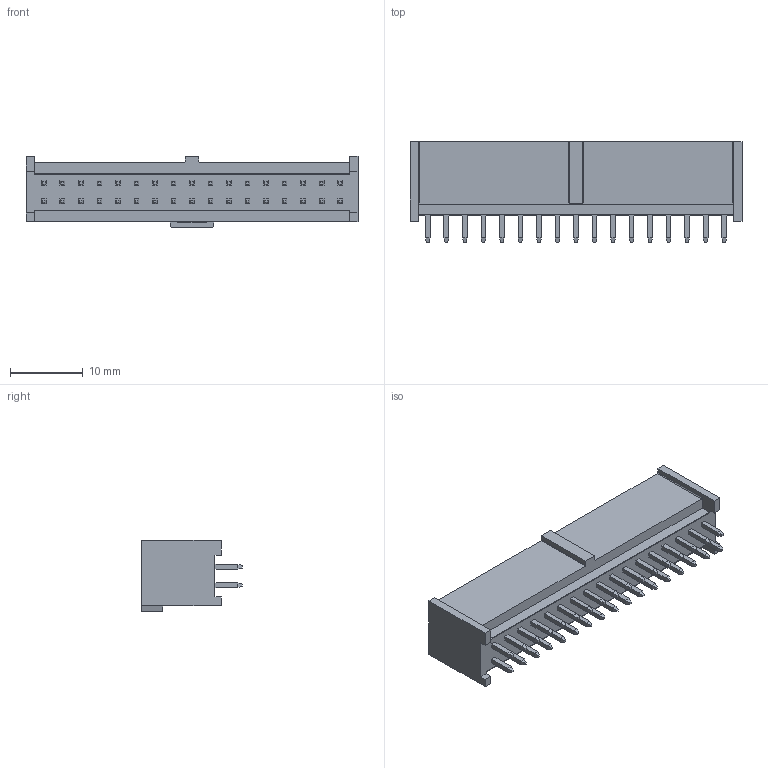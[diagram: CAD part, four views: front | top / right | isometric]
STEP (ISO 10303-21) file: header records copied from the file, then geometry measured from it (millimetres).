
FILE_DESCRIPTION((''),'2;1');
FILE_NAME('901301234','2018-10-31T',('gga'),(''),'PRO/ENGINEER BY PARAMETRIC TECHNOLOGY CORPORATION, 2016010','PRO/ENGINEER BY PARAMETRIC TECHNOLOGY CORPORATION, 2016010','');
FILE_SCHEMA(('CONFIG_CONTROL_DESIGN'));
Length unit declared in the file: millimetre
Products named in the file (1): 901301234
Bounding box: 45.52 x 13.8 x 9.75 mm (x, y, z)
Volume: 1629.5 mm3; surface area: 3510.7 mm2
Topology: 1 solids, 1 shells, 669 faces, 1592 edges, 992 vertices
Faces by surface type: plane 665, cylinder 4
Entity records: 18579 total; most frequent: CARTESIAN_POINT 3186, ORIENTED_EDGE 3048, DIRECTION 3008, EDGE_CURVE 1524, VECTOR 1516, LINE 1516, VERTEX_POINT 924, AXIS2_PLACEMENT_3D 746
